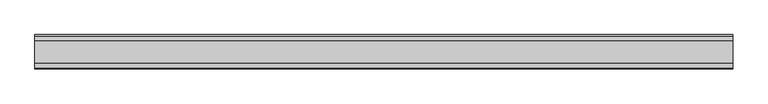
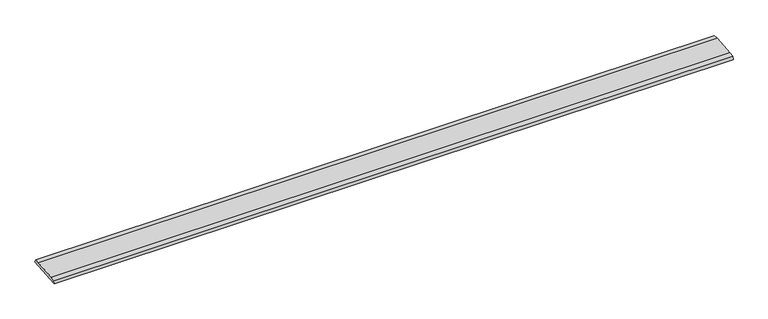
"""IFC4 building model written with IfcOpenShell, lengths in millimetres: proxy geometry, Muestra 5.01m 245FL : Muestra 5.01m 245FL."""

from ifc_helpers import new_model, si_unit, point, frame, frame_2d, origin, place, context, project, spatial, polyline, circle_curve, trimmed, segment, composite_curve, outline, extrude, source, transform, mapped, element, save


def generic_models_54147b73(model_context):
    return source(origin(), model_context, "Body", "SweptSolid", [
        extrude(outline(composite_curve([segment(trimmed(circle_curve(frame_2d((-7647.7193671, -690.4671462)), 721.556477), [point((-7785.0738024, 17.8954084))], [point((-7749.5535093, 23.8671992))], False, "CARTESIAN"), True, "CONTINUOUS"), segment(polyline([(-7749.5535093, 23.8671992), (-7586.1869789, 37.164475)]), True, "CONTINUOUS"), segment(trimmed(circle_curve(frame_2d((-7571.159026, -684.2354905)), 721.556477), [point((-7586.1869789, 37.164475))], [point((-7550.6187643, 37.0285715))], False, "CARTESIAN"), True, "CONTINUOUS"), segment(polyline([(-7550.6187643, 37.0285715), (-7541.9782495, 15.6386957), (-7790.119177, -4.5588217), (-7785.0738024, 17.8954084)]), True, "CONTINUOUS")], self_intersect=False)), frame((138172.3282725, 0.0, 0.0), z_axis=(1.0, 0.0, 0.0), x_axis=(0.0, 1.0, 0.0)), (0.0, 0.0, 1.0), 5010.0),
    ])


if __name__ == "__main__":
    model = new_model("IFC4")
    model_context = context("Model", 3, world=origin())
    ifc_project = project(units=[si_unit("LENGTHUNIT", "METRE", prefix="MILLI")], contexts=[model_context])
    site = spatial("IfcSite", under=ifc_project)
    building = spatial("IfcBuilding", under=site)
    placement = place(None, origin())
    generic_models_shape = generic_models_54147b73(model_context)
    element("IfcBuildingElementProxy", 1, Name="Muestra 5.01m 245FL : Muestra 5.01m 245FL", ObjectType="Muestra 5.01m 245FL : Muestra 5.01m 245FL", at=placement, inside=building, context=model_context, shape_type="MappedRepresentation", body=[
        mapped(generic_models_shape, transform((0.0, 0.0, 0.0), x_axis=(1.0, 0.0, 0.0), y_axis=(0.0, 1.0, 0.0), z_axis=(0.0, 0.0, 1.0))),
    ])
    save(model, "model.ifc")
